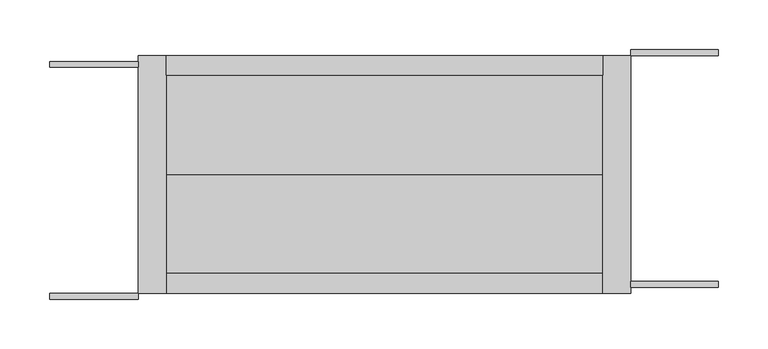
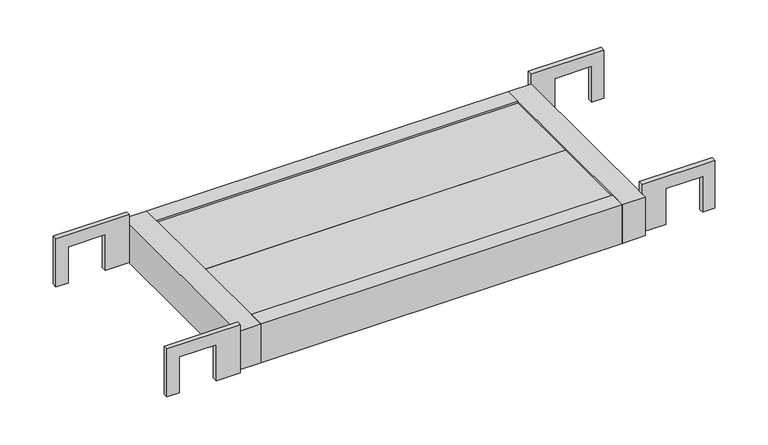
"""IFC4 building model written with IfcOpenShell, lengths in millimetres: proxy geometry, AKK布板HF-206_斜線なし_軽 : 鋼製布板 HF-206."""

import ifcopenshell
import ifcopenshell.guid

model = None  # the IFC model being written
_history = None  # IfcOwnerHistory: only IFC2X3 demands one
_inside = {}  # id of a spatial element -> (the spatial element, [elements in it])
_under = {}  # id of a project, library or spatial element -> (it, [spatial elements below it])
_declared = {}  # id of a project -> (the project, [libraries it declares])
_typed = {}  # id of a type object -> (the type object, [elements of that type])
_made_of = {}  # id of a material, layer set ... -> (it, [elements and type objects made of it])


def new_model(schema):
    """Start an empty IFC model of exactly this schema.

    Asked for "IFC4X3", IfcOpenShell would pick the latest addendum, in which some entities
    have other attributes; the version numbers below select the first issue.
    IFC2X3 requires an IfcOwnerHistory on every rooted entity: one is made here for all.
    """
    global model, _history
    if schema == "IFC4X3":
        model = ifcopenshell.file(schema_version=(4, 3, 0, 0))
    else:
        model = ifcopenshell.file(schema=schema)
    _inside.clear()
    _under.clear()
    _declared.clear()
    _typed.clear()
    _made_of.clear()
    _history = None
    if model.schema == "IFC2X3":
        org = make("IfcOrganization", Name="unknown")
        user = make(
            "IfcPersonAndOrganization",
            ThePerson=make("IfcPerson", FamilyName="unknown"),
            TheOrganization=org,
        )
        app = make(
            "IfcApplication",
            ApplicationDeveloper=org,
            Version="unknown",
            ApplicationFullName="unknown",
            ApplicationIdentifier="unknown",
        )
        _history = make(
            "IfcOwnerHistory",
            OwningUser=user,
            OwningApplication=app,
            ChangeAction="ADDED",
            CreationDate=0,
        )
    return model


def make(cls, **values):
    """One entity of the class cls with the attributes given. An attribute that is None is left unset."""
    return model.create_entity(
        cls, **{name: value for name, value in values.items() if value is not None}
    )


def rooted(cls, **values):
    """An entity with a GlobalId (a new one), such as an element, a storey or a relation."""
    return make(cls, GlobalId=ifcopenshell.guid.new(), OwnerHistory=_history, **values)


def si_unit(unit_type, name, prefix=None):
    """IfcSIUnit, for example si_unit("LENGTHUNIT", "METRE", prefix="MILLI")."""
    return make("IfcSIUnit", UnitType=unit_type, Prefix=prefix, Name=name)


def assignment(units):
    """IfcUnitAssignment: the units of a project."""
    return None if units is None else make("IfcUnitAssignment", Units=units)


def point(xyz):
    """IfcCartesianPoint."""
    return None if xyz is None else make("IfcCartesianPoint", Coordinates=xyz)


def direction(xyz):
    """IfcDirection."""
    return None if xyz is None else make("IfcDirection", DirectionRatios=xyz)


def frame(location, z_axis=None, x_axis=None):
    """IfcAxis2Placement3D, a coordinate frame: its origin and axes. An axis left out is left unset."""
    return make(
        "IfcAxis2Placement3D",
        Location=point(location),
        Axis=direction(z_axis),
        RefDirection=direction(x_axis),
    )


def origin():
    """The frame at (0, 0, 0) with its axes left unset."""
    return frame((0.0, 0.0, 0.0))


def place(relative_to, where):
    """IfcLocalPlacement: puts the frame where relative to a parent placement (None: the world)."""
    return make(
        "IfcLocalPlacement", PlacementRelTo=relative_to, RelativePlacement=where
    )


def context(
    kind, dimensions, precision=None, world=None, true_north=None, identifier=None
):
    """IfcGeometricRepresentationContext, for example the 3D "Model" context."""
    return make(
        "IfcGeometricRepresentationContext",
        ContextIdentifier=identifier,
        ContextType=kind,
        CoordinateSpaceDimension=dimensions,
        Precision=precision,
        WorldCoordinateSystem=world,
        TrueNorth=true_north,
    )


def project(units=None, contexts=None):
    """IfcProject with its units and contexts."""
    return rooted(
        "IfcProject",
        Name="project",
        RepresentationContexts=contexts,
        UnitsInContext=assignment(units),
    )


def spatial(cls, under=None, at=None, **own):
    """A site, building, storey or space (cls), placed at a placement, below another one or the project."""
    s = rooted(cls, ObjectPlacement=at, **own)
    if under is not None:
        _under.setdefault(under.id(), (under, []))[1].append(s)
    return s


def polyline(points):
    """IfcPolyline through the points."""
    return make("IfcPolyline", Points=[point(p) for p in points])


def outline(outer, holes=None, kind="AREA"):
    """IfcArbitraryClosedProfileDef: a profile drawn as a closed curve; with holes, ...WithVoids."""
    if holes is None:
        return make("IfcArbitraryClosedProfileDef", ProfileType=kind, OuterCurve=outer)
    return make(
        "IfcArbitraryProfileDefWithVoids",
        ProfileType=kind,
        OuterCurve=outer,
        InnerCurves=holes,
    )


def extrude(swept, where, along, depth):
    """IfcExtrudedAreaSolid: the profile swept, set in the frame where, extruded along a direction by depth."""
    return make(
        "IfcExtrudedAreaSolid",
        SweptArea=swept,
        Position=where,
        ExtrudedDirection=direction(along),
        Depth=depth,
    )


def shape(context_of_items, identifier, shape_type, items):
    """IfcShapeRepresentation: the items that make up one representation, for example the "Body"."""
    return make(
        "IfcShapeRepresentation",
        ContextOfItems=context_of_items,
        RepresentationIdentifier=identifier,
        RepresentationType=shape_type,
        Items=items,
    )


def source(mapping_origin, context_of_items, identifier, shape_type, items):
    """IfcRepresentationMap: a shape defined once, which mapped items show again and again."""
    return make(
        "IfcRepresentationMap",
        MappingOrigin=mapping_origin,
        MappedRepresentation=shape(context_of_items, identifier, shape_type, items),
    )


def transform(
    local_origin,
    x_axis=None,
    y_axis=None,
    z_axis=None,
    scale=None,
    scale2=None,
    scale3=None,
    uniform=True,
):
    """IfcCartesianTransformationOperator3D, or its non-uniform kind. x_axis, y_axis, z_axis: its Axis1, 2, 3."""
    if uniform:
        return make(
            "IfcCartesianTransformationOperator3D",
            Axis1=direction(x_axis),
            Axis2=direction(y_axis),
            LocalOrigin=point(local_origin),
            Scale=scale,
            Axis3=direction(z_axis),
        )
    return make(
        "IfcCartesianTransformationOperator3DnonUniform",
        Axis1=direction(x_axis),
        Axis2=direction(y_axis),
        LocalOrigin=point(local_origin),
        Scale=scale,
        Axis3=direction(z_axis),
        Scale2=scale2,
        Scale3=scale3,
    )


def mapped(mapping_source, mapping_target):
    """IfcMappedItem: shows the shape of a source again, moved by a transform."""
    return make(
        "IfcMappedItem", MappingSource=mapping_source, MappingTarget=mapping_target
    )


def made_of(thing, what):
    """Note that an element or type object is made of a material, layer set ...; save() writes the relation."""
    if what is not None:
        _made_of.setdefault(what.id(), (what, []))[1].append(thing)
    return thing


def element(
    cls,
    number,
    at=None,
    inside=None,
    cuts=None,
    type_object=None,
    material=None,
    context=None,
    identifier="Body",
    shape_type=None,
    held_by="IfcProductDefinitionShape",
    body=None,
    shapes=None,
    **own,
):
    """One element of the class cls, such as IfcWall. Its Tag is "e" and its number.

    at: its placement. inside: the storey or other place that contains it. cuts: it is an
    opening in that element (IfcRelVoidsElement). A single representation is given by context,
    identifier, shape_type and body (its items); several are given by shapes. held_by: the class
    of the entity that holds the representations. save() writes the other relations.
    """
    e = rooted(cls, Tag="e%d" % number, ObjectPlacement=at, **own)
    if body is not None:
        shapes = [shape(context, identifier, shape_type, body)]
    if shapes is not None:
        e.Representation = make(held_by, Representations=shapes)
    if inside is not None:
        _inside.setdefault(inside.id(), (inside, []))[1].append(e)
    if cuts is not None:
        rooted(
            "IfcRelVoidsElement", RelatingBuildingElement=cuts, RelatedOpeningElement=e
        )
    if type_object is not None:
        _typed.setdefault(type_object.id(), (type_object, []))[1].append(e)
    return made_of(e, material)


def aggregate(whole, parts):
    """IfcRelAggregates: a whole, such as a stair, and the parts it consists of."""
    return rooted("IfcRelAggregates", RelatingObject=whole, RelatedObjects=parts)


def save(model, path):
    """Write the relations noted so far, then the file.

    IfcRelAggregates (storeys below a building ...), IfcRelContainedInSpatialStructure (elements
    in a storey), IfcRelDefinesByType, IfcRelAssociatesMaterial and IfcRelDeclares: one each for
    every whole, place, type object, material and project.
    """
    for whole, parts in _under.values():
        aggregate(whole, parts)
    for where, things in _inside.values():
        rooted(
            "IfcRelContainedInSpatialStructure",
            RelatedElements=things,
            RelatingStructure=where,
        )
    for kind, things in _typed.values():
        rooted("IfcRelDefinesByType", RelatedObjects=things, RelatingType=kind)
    for what, things in _made_of.values():
        rooted("IfcRelAssociatesMaterial", RelatedObjects=things, RelatingMaterial=what)
    for by, libraries in _declared.values():
        rooted("IfcRelDeclares", RelatingContext=by, RelatedDefinitions=libraries)
    model.write(path)


def generic_models_d6b93112(model_context):
    return source(origin(), model_context, "Body", "SweptSolid", [
        extrude(outline(polyline([(37.5, 553.0), (-24.1, 553.0), (-24.1, 581.5), (22.0, 581.5), (22.0, 626.5), (-24.1, 626.5), (-24.1, 641.5), (37.5, 641.5), (37.5, 553.0)])), frame((0.0, 12.0, 0.0), z_axis=(0.0, 1.0, 0.0), x_axis=(0.0, 0.0, 1.0)), (0.0, 0.0, 1.0), 6.0),
        extrude(outline(polyline([(37.5, 553.0), (-24.1, 553.0), (-24.1, 581.5), (22.0, 581.5), (22.0, 626.5), (-24.1, 626.5), (-24.1, 641.5), (37.5, 641.5), (37.5, 553.0)])), frame((0.0, 246.0, 0.0), z_axis=(0.0, 1.0, 0.0), x_axis=(0.0, 0.0, 1.0)), (0.0, 0.0, 1.0), 6.0),
        extrude(outline(polyline([(37.5, -32.5), (-24.1, -32.5), (-24.1, -17.5), (22.0, -17.5), (22.0, 27.5), (-24.1, 27.5), (-24.1, 57.0), (37.5, 57.0), (37.5, -32.5)])), frame((0.0, 0.0, 0.0), z_axis=(0.0, 1.0, 0.0), x_axis=(0.0, 0.0, 1.0)), (0.0, 0.0, 1.0), 6.0),
        extrude(outline(polyline([(37.5, -32.5), (-24.1, -32.5), (-24.1, -17.5), (22.0, -17.5), (22.0, 27.5), (-24.1, 27.5), (-24.1, 57.0), (37.5, 57.0), (37.5, -32.5)])), frame((0.0, 234.0, 0.0), z_axis=(0.0, 1.0, 0.0), x_axis=(0.0, 0.0, 1.0)), (0.0, 0.0, 1.0), 6.0),
        extrude(outline(polyline([(525.0, 226.0), (525.0, 126.0), (85.0, 126.0), (85.0, 226.0), (525.0, 226.0)])), frame((0.0, 0.0, 17.5), z_axis=(0.0, 0.0, 1.0), x_axis=(1.0, 0.0, 0.0)), (0.0, 0.0, 1.0), 5.0),
        extrude(outline(polyline([(525.0, 126.0), (525.0, 26.0), (85.0, 26.0), (85.0, 126.0), (525.0, 126.0)])), frame((0.0, 0.0, 17.5), z_axis=(0.0, 0.0, 1.0), x_axis=(1.0, 0.0, 0.0)), (0.0, 0.0, 1.0), 5.0),
        extrude(outline(polyline([(525.0, 246.0), (525.0, 226.0), (85.0, 226.0), (85.0, 246.0), (525.0, 246.0)])), frame((0.0, 0.0, -25.0), z_axis=(0.0, 0.0, 1.0), x_axis=(1.0, 0.0, 0.0)), (0.0, 0.0, 1.0), 50.0),
        extrude(outline(polyline([(525.0, 6.0), (525.0, 246.0), (553.0, 246.0), (553.0, 6.0), (525.0, 6.0)])), frame((0.0, 0.0, -25.0), z_axis=(0.0, 0.0, 1.0), x_axis=(1.0, 0.0, 0.0)), (0.0, 0.0, 1.0), 50.0),
        extrude(outline(polyline([(57.0, 6.0), (57.0, 246.0), (85.0, 246.0), (85.0, 6.0), (57.0, 6.0)])), frame((0.0, 0.0, -25.0), z_axis=(0.0, 0.0, 1.0), x_axis=(1.0, 0.0, 0.0)), (0.0, 0.0, 1.0), 50.0),
        extrude(outline(polyline([(525.0, 26.0), (525.0, 6.0), (85.0, 6.0), (85.0, 26.0), (525.0, 26.0)])), frame((0.0, 0.0, -25.0), z_axis=(0.0, 0.0, 1.0), x_axis=(1.0, 0.0, 0.0)), (0.0, 0.0, 1.0), 50.0),
    ])


if __name__ == "__main__":
    model = new_model("IFC4")
    model_context = context("Model", 3, world=origin())
    ifc_project = project(units=[si_unit("LENGTHUNIT", "METRE", prefix="MILLI")], contexts=[model_context])
    site = spatial("IfcSite", under=ifc_project)
    building = spatial("IfcBuilding", under=site)
    placement = place(None, origin())
    generic_models_shape = generic_models_d6b93112(model_context)
    element("IfcBuildingElementProxy", 1, Name="AKK布板HF-206_斜線なし_軽 : 鋼製布板 HF-206", ObjectType="AKK布板HF-206_斜線なし_軽 : 鋼製布板 HF-206", at=placement, inside=building, context=model_context, shape_type="MappedRepresentation", body=[
        mapped(generic_models_shape, transform((0.0, 0.0, 0.0), x_axis=(1.0, 0.0, 0.0), y_axis=(0.0, 1.0, 0.0), z_axis=(0.0, 0.0, 1.0))),
    ])
    save(model, "model.ifc")
